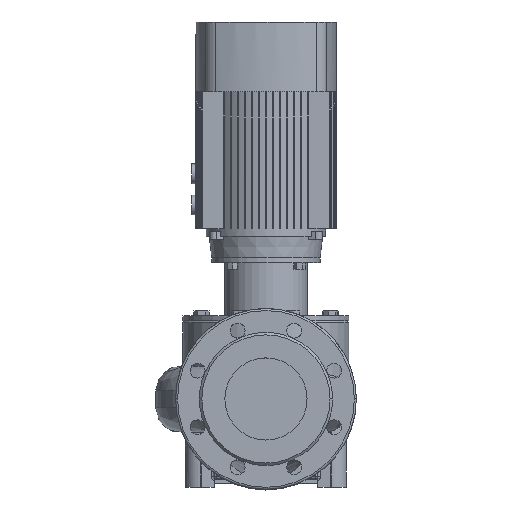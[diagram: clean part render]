
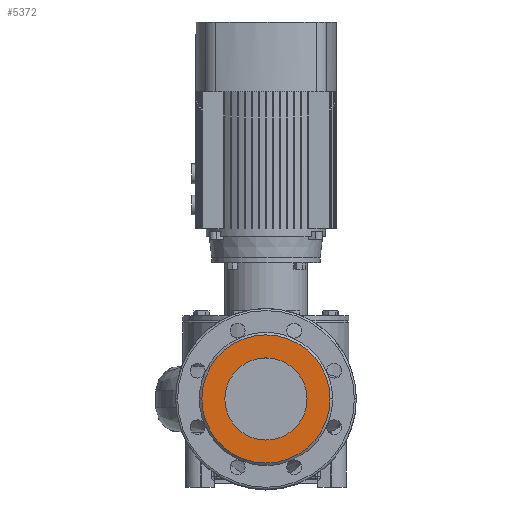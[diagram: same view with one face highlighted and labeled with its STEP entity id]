
A CAD part, top view. The second image highlights one B-rep face of the part: STEP entity #5372.
In plain terms, the highlighted planar face has unit normal (0, 0, 1).
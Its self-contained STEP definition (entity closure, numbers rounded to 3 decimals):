
#253 = DIRECTION ( 'NONE',  ( -1., 0., 0. ) ) ;
#566 = CARTESIAN_POINT ( 'NONE',  ( -50., 0., 225. ) ) ;
#1440 = DIRECTION ( 'NONE',  ( 0., 0., 1. ) ) ;
#2378 = FACE_OUTER_BOUND ( 'NONE', #9626, .T. ) ;
#2741 = EDGE_CURVE ( 'NONE', #4975, #28047, #25720, .T. ) ;
#3527 = DIRECTION ( 'NONE',  ( -1., 0., 0. ) ) ;
#3567 = AXIS2_PLACEMENT_3D ( 'NONE', #7777, #25053, #3527 ) ;
#4929 = DIRECTION ( 'NONE',  ( 1., 0., 0. ) ) ;
#4975 = VERTEX_POINT ( 'NONE', #566 ) ;
#5372 = ADVANCED_FACE ( 'NONE', ( #21794, #2378 ), #27886, .F. ) ;
#5411 = CARTESIAN_POINT ( 'NONE',  ( 0., 0., 225. ) ) ;
#6671 = AXIS2_PLACEMENT_3D ( 'NONE', #11044, #19677, #253 ) ;
#6783 = ORIENTED_EDGE ( 'NONE', *, *, #2741, .F. ) ;
#7777 = CARTESIAN_POINT ( 'NONE',  ( 0., 0., 225. ) ) ;
#7925 = CARTESIAN_POINT ( 'NONE',  ( 78., 0., 225. ) ) ;
#8236 = EDGE_CURVE ( 'NONE', #28047, #4975, #17221, .T. ) ;
#8775 = CARTESIAN_POINT ( 'NONE',  ( 0., 0., 225. ) ) ;
#9256 = EDGE_CURVE ( 'NONE', #11345, #12266, #17333, .T. ) ;
#9626 = EDGE_LOOP ( 'NONE', ( #20645, #27263 ) ) ;
#10098 = CARTESIAN_POINT ( 'NONE',  ( 0., 0., 225. ) ) ;
#11044 = CARTESIAN_POINT ( 'NONE',  ( 0., 78., 225. ) ) ;
#11345 = VERTEX_POINT ( 'NONE', #7925 ) ;
#12266 = VERTEX_POINT ( 'NONE', #12773 ) ;
#12628 = DIRECTION ( 'NONE',  ( 1., 0., 0. ) ) ;
#12773 = CARTESIAN_POINT ( 'NONE',  ( -78., 0., 225. ) ) ;
#13799 = CARTESIAN_POINT ( 'NONE',  ( 50., 0., 225. ) ) ;
#15420 = DIRECTION ( 'NONE',  ( 0., 0., 1. ) ) ;
#15614 = DIRECTION ( 'NONE',  ( 0., 0., 1. ) ) ;
#15724 = EDGE_LOOP ( 'NONE', ( #20185, #6783 ) ) ;
#15782 = CIRCLE ( 'NONE', #3567, 78. ) ;
#17221 = CIRCLE ( 'NONE', #19939, 50. ) ;
#17333 = CIRCLE ( 'NONE', #18650, 78. ) ;
#18360 = EDGE_CURVE ( 'NONE', #12266, #11345, #15782, .T. ) ;
#18650 = AXIS2_PLACEMENT_3D ( 'NONE', #10098, #1440, #18733 ) ;
#18733 = DIRECTION ( 'NONE',  ( -1., 0., 0. ) ) ;
#19677 = DIRECTION ( 'NONE',  ( 0., 0., -1. ) ) ;
#19845 = AXIS2_PLACEMENT_3D ( 'NONE', #5411, #15614, #12628 ) ;
#19939 = AXIS2_PLACEMENT_3D ( 'NONE', #8775, #15420, #4929 ) ;
#20185 = ORIENTED_EDGE ( 'NONE', *, *, #8236, .F. ) ;
#20645 = ORIENTED_EDGE ( 'NONE', *, *, #18360, .T. ) ;
#21794 = FACE_BOUND ( 'NONE', #15724, .T. ) ;
#25053 = DIRECTION ( 'NONE',  ( 0., 0., 1. ) ) ;
#25720 = CIRCLE ( 'NONE', #19845, 50. ) ;
#27263 = ORIENTED_EDGE ( 'NONE', *, *, #9256, .T. ) ;
#27886 = PLANE ( 'NONE',  #6671 ) ;
#28047 = VERTEX_POINT ( 'NONE', #13799 ) ;
